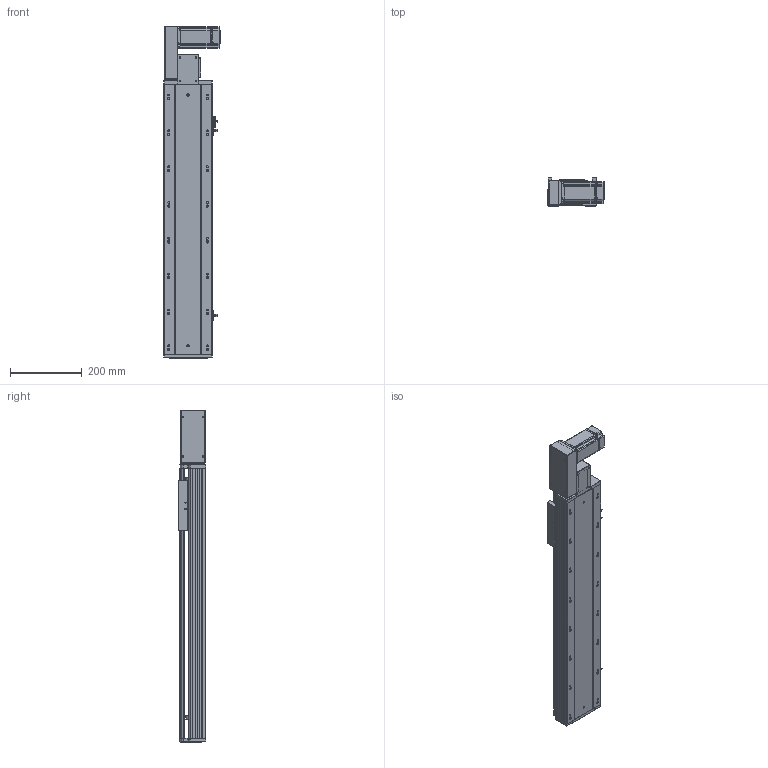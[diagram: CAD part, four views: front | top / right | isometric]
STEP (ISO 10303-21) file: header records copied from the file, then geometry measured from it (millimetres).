
FILE_DESCRIPTION (( 'STEP AP203' ), '1' );
FILE_NAME ('RY140-T-300-LK.SLDASM_500.step', '2021-03-01T06:34:51', ( '盈信电脑' ), ( '东莞市道滘镇水果街19号' ), 'SwSTEP 2.0', 'SolidWorks 2012', '' );
FILE_SCHEMA (( 'CONFIG_CONTROL_DESIGN' ));
Length unit declared in the file: millimetre
Products named in the file (18): RY140-T翋肮謫裔啣; RY140-T萇儂欶; 滅袉蝶18-10; RY140-T-300-LK.SLDASM_500; RY120-T主同步轮轴承压盖; 侂狟400W侜督萇儂; RY120-T蹟翐M4; RY120-T肮祭湍揤踡輸1; RY140-T萇儂假蚾啣; 15; RY140-T翋肮祭謫盓傅釱; RY120-T肮祭湍揤踡輸2; RY120外置感应片(140共用）; 覜茼ん672; RY140-T-300-DL倰第菁釱_500; RY140綴裔啣; RY140肮祭謫臏賑輸; RY140-T-300-DL倰第奻裔啣_500
Assembly tree (23 placements, depth 3):
  RY140-T-300-LK.SLDASM_500
    RY140-T-300-DL倰第菁釱_500
    RY140肮祭謫臏賑輸
    RY140-T-300-DL倰第奻裔啣_500
    RY140綴裔啣
    覜茼ん672  x3
    RY120外置感应片(140共用）
    RY120-T肮祭湍揤踡輸2
    RY120-T肮祭湍揤踡輸1
    RY140-T翋肮祭謫盓傅釱
    RY140-T萇儂假蚾啣
    侂狟400W侜督萇儂
      15
    RY120-T主同步轮轴承压盖
    RY120-T蹟翐M4  x4
    RY140-T萇儂欶
    滅袉蝶18-10  x2
    RY140-T翋肮謫裔啣
Bounding box: 157 x 78 x 926.5 mm (x, y, z)
Volume: 2796834.4 mm3; surface area: 1036546.1 mm2
Topology: 22 solids, 22 shells, 2619 faces, 7189 edges, 4636 vertices
Faces by surface type: plane 1385, cylinder 948, cone 186, bspline 100
Entity records: 83261 total; most frequent: CARTESIAN_POINT 20467, ORIENTED_EDGE 12930, DIRECTION 12209, EDGE_CURVE 6465, VERTEX_POINT 4235, VECTOR 4153, LINE 4153, AXIS2_PLACEMENT_3D 4028
